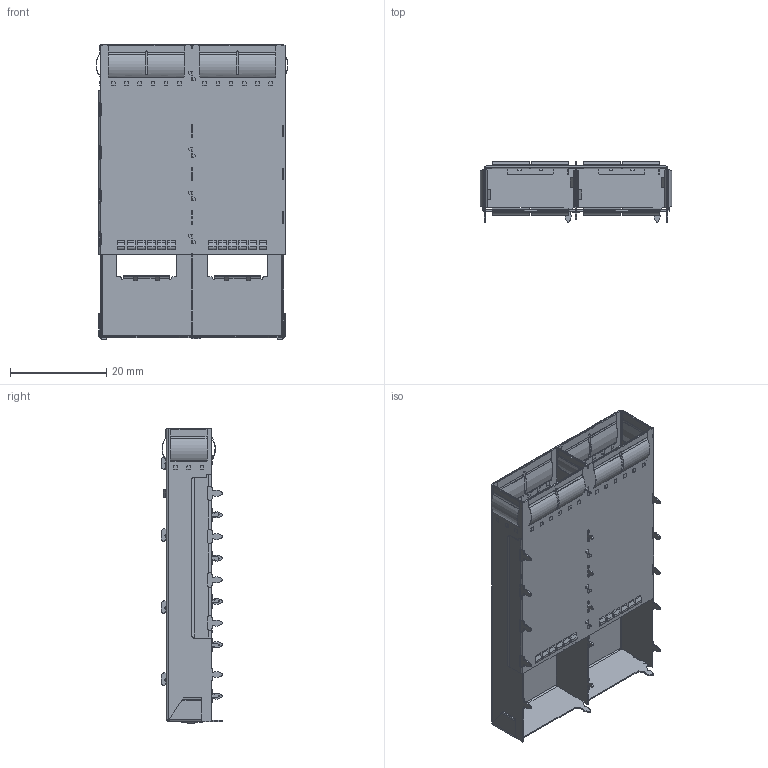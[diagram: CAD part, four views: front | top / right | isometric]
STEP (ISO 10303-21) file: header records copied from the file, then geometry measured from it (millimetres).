
FILE_DESCRIPTION(/* description */ (''),/* implementation_level */ '2;1');
FILE_NAME(/* name */ 'QSFP28 1X1压接脚 后1脚 顶部散热方孔 3D.stp',/* time_stamp */ '2026-08-29T14:44:30+08:00',/* author */ (''),/* organization */ (''),/* preprocessor_version */ 'ST-DEVELOPER v16.7',/* originating_system */ 'SIEMENS PLM Software NX 1847',/* authorisation */ '');
FILE_SCHEMA (('AUTOMOTIVE_DESIGN { 1 0 10303 214 3 1 1 1 }'));
Products named in the file (1): Admi29F470BBielk
Bounding box: 39.91 x 12.75 x 61.22 mm (x, y, z)
Volume: 1486.3 mm3; surface area: 13217.7 mm2
Topology: 1 solids, 1 shells, 2521 faces, 6677 edges, 4162 vertices
Faces by surface type: plane 1509, cylinder 949, bspline 47, sphere 16
Entity records: 97908 total; most frequent: CARTESIAN_POINT 17125, ORIENTED_EDGE 13354, DIRECTION 13241, EDGE_CURVE 6677, LINE 4543, VECTOR 4543, AXIS2_PLACEMENT_3D 4349, VERTEX_POINT 4162
